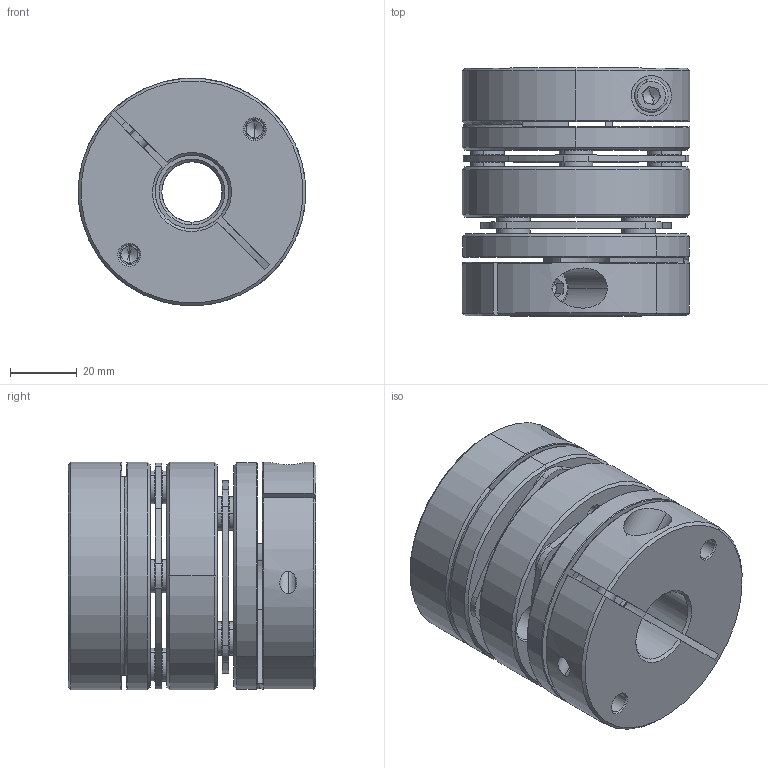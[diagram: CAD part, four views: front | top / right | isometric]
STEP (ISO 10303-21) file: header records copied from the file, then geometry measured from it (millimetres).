
FILE_DESCRIPTION (( 'STEP AP203' ), '1' );
FILE_NAME ('LD2-D68-18-22.STEP', '2021-10-26T08:24:15', ( '' ), ( '' ), 'SwSTEP 2.0', 'SolidWorks 2018', '' );
FILE_SCHEMA (( 'CONFIG_CONTROL_DESIGN' ));
Length unit declared in the file: millimetre
Products named in the file (2): LD2-D68-18-22; 錨璃102^LD2-D68
Assembly tree (1 placements, depth 2):
  LD2-D68-18-22
    錨璃102^LD2-D68
Bounding box: 68 x 74 x 68 mm (x, y, z)
Volume: 189610.7 mm3; surface area: 64685.5 mm2
Topology: 1 solids, 27 shells, 736 faces, 1708 edges, 1040 vertices
Faces by surface type: cylinder 258, cone 226, plane 222, torus 30
Entity records: 21536 total; most frequent: DIRECTION 4002, CARTESIAN_POINT 3933, ORIENTED_EDGE 3368, EDGE_CURVE 1684, AXIS2_PLACEMENT_3D 1625, VERTEX_POINT 1040, CIRCLE 885, EDGE_LOOP 872
